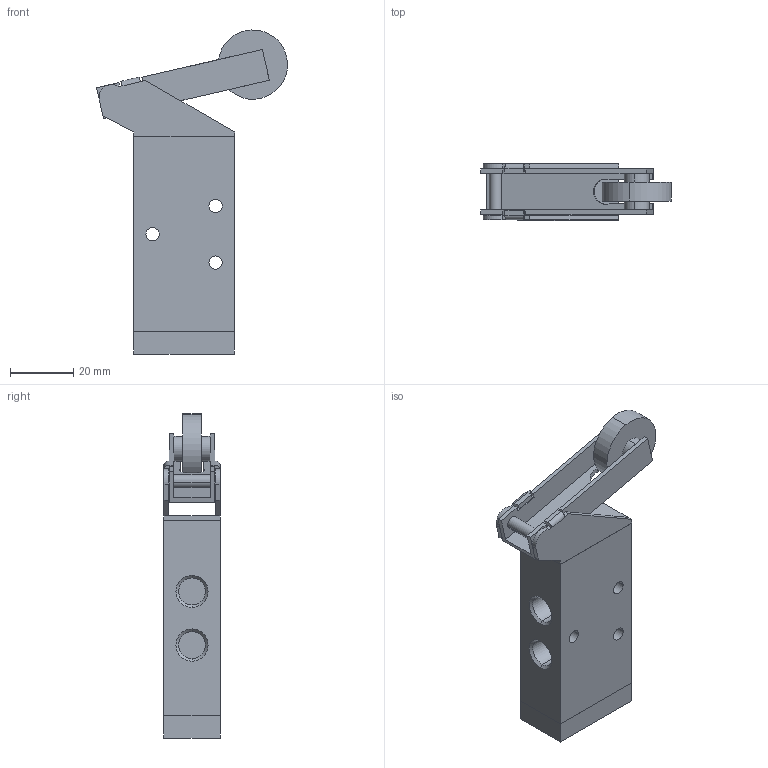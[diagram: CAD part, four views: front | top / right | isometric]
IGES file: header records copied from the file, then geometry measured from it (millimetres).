
Global section: file name: No Iges File Name specified; native system: AutoDesk Inventor R11.0; preprocessor: AutoDesk Inventor Iges Exporter R11.0; author: No Author specified; organization: No Organization specified; date: 20061219.114108; units: millimetre
Bounding box: 60.6 x 18 x 102.83 mm (x, y, z)
Volume: 43547.6 mm3; surface area: 17679.6 mm2
Topology: 3 solids, 3 shells, 120 faces, 284 edges, 180 vertices
Faces by surface type: plane 64, bspline 37, cylinder 12, revolution 7
